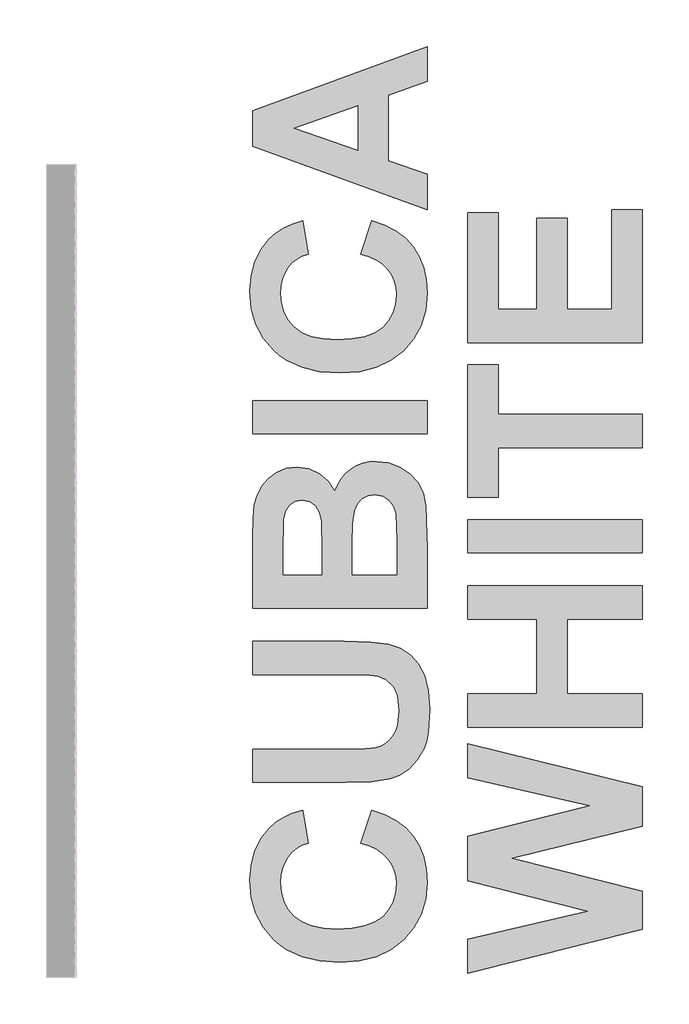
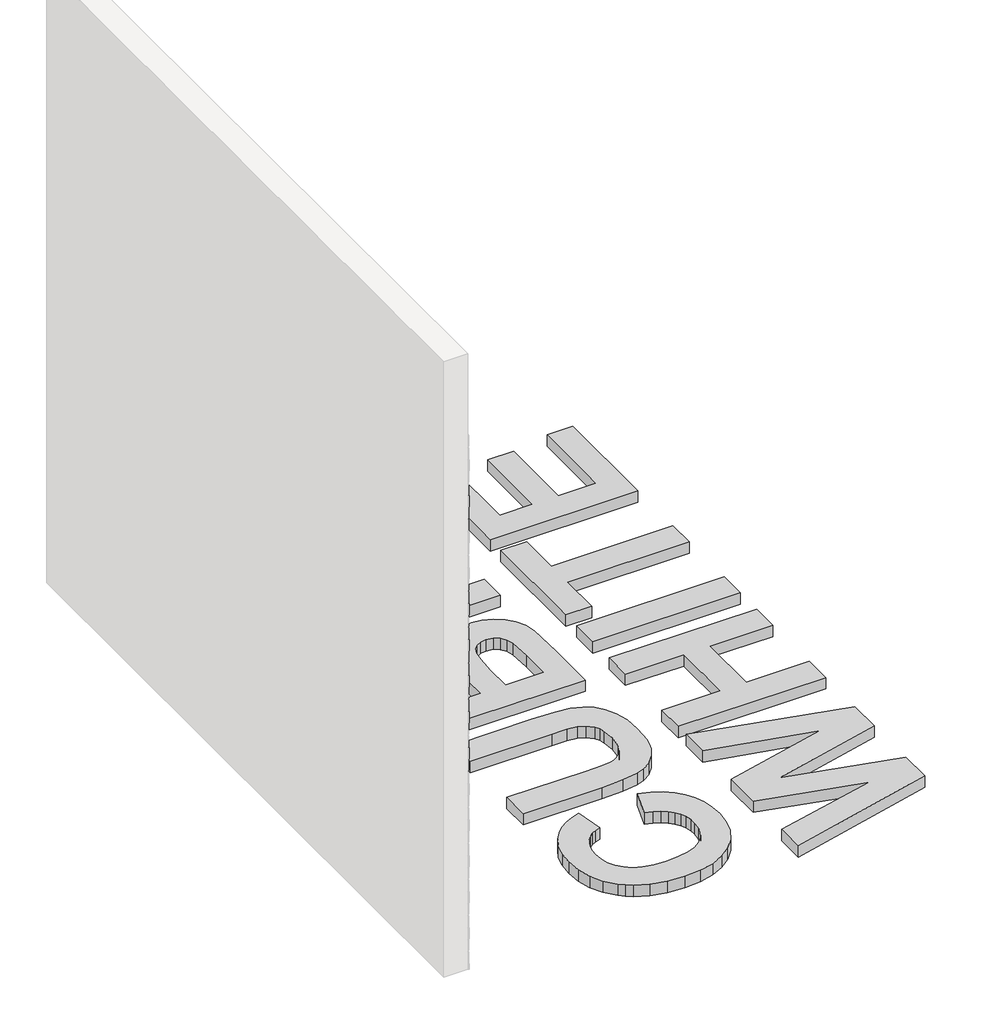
# One storey, part 113 of 121: 112 proxies.
"""IFC4 building model written with IfcOpenShell, lengths in millimetres."""

from ifc_helpers import new_model, si_unit, origin, origin_with_axes, place, context, project, spatial, polyline, outline, extrude, transform, mapped, element, save
from components import generic_models_b2b2c5c1, generic_models_9bf73f6f, generic_models_5d175859, generic_models_95f85f1d, generic_models_01361f29, generic_models_0bb79e7c

model = new_model("IFC4")

# Units and contexts
model_context = context("Model", 3, world=origin())
ifc_project = project(units=[si_unit("LENGTHUNIT", "METRE", prefix="MILLI")], contexts=[model_context])

# Site, building, storey
site = spatial("IfcSite", under=ifc_project)
building = spatial("IfcBuilding", under=site)
storey = spatial("IfcBuildingStorey", under=building, Name="PORTOBELLO - SHOWROOM", Elevation=0.0)

# Proxies
placement = place(None, origin())
generic_models_shape = generic_models_b2b2c5c1(model_context)
element("IfcBuildingElementProxy", 1, Name="PBSHOP - CUBICA WHITE 4,8X8,3 : CUBICA WHITE - POSIÇÃO 01", ObjectType="PBSHOP - CUBICA WHITE 4,8X8,3 : CUBICA WHITE - POSIÇÃO 01", at=placement, inside=storey, context=model_context, shape_type="MappedRepresentation", body=[
    mapped(generic_models_shape, transform((150369.5341846, 21013.3331304, 39.4221668), x_axis=(0.0, 1.0, 0.0), y_axis=(0.0, 0.0, 1.0), z_axis=(1.0, 0.0, 0.0))),
])
element("IfcBuildingElementProxy", 2, Name="PBSHOP - CUBICA WHITE 4,8X8,3 : CUBICA WHITE - POSIÇÃO 01", ObjectType="PBSHOP - CUBICA WHITE 4,8X8,3 : CUBICA WHITE - POSIÇÃO 01", at=placement, inside=storey, context=model_context, shape_type="MappedRepresentation", body=[
    mapped(generic_models_shape, transform((150369.5341846, 21104.1723997, 39.4221668), x_axis=(0.0, 1.0, 0.0), y_axis=(0.0, 0.0, 1.0), z_axis=(1.0, 0.0, 0.0))),
])
element("IfcBuildingElementProxy", 3, Name="PBSHOP - CUBICA WHITE 4,8X8,3 : CUBICA WHITE - POSIÇÃO 01", ObjectType="PBSHOP - CUBICA WHITE 4,8X8,3 : CUBICA WHITE - POSIÇÃO 01", at=placement, inside=storey, context=model_context, shape_type="MappedRepresentation", body=[
    mapped(generic_models_shape, transform((150369.5341846, 21195.0116689, 39.4221668), x_axis=(0.0, 1.0, 0.0), y_axis=(0.0, 0.0, 1.0), z_axis=(1.0, 0.0, 0.0))),
])
element("IfcBuildingElementProxy", 4, Name="PBSHOP - CUBICA WHITE 4,8X8,3 : CUBICA WHITE - POSIÇÃO 01", ObjectType="PBSHOP - CUBICA WHITE 4,8X8,3 : CUBICA WHITE - POSIÇÃO 01", at=placement, inside=storey, context=model_context, shape_type="MappedRepresentation", body=[
    mapped(generic_models_shape, transform((150369.5341846, 21285.8509382, 39.4221668), x_axis=(0.0, 1.0, 0.0), y_axis=(0.0, 0.0, 1.0), z_axis=(1.0, 0.0, 0.0))),
])
element("IfcBuildingElementProxy", 5, Name="PBSHOP - CUBICA WHITE 4,8X8,3 : CUBICA WHITE - POSIÇÃO 01", ObjectType="PBSHOP - CUBICA WHITE 4,8X8,3 : CUBICA WHITE - POSIÇÃO 01", at=placement, inside=storey, context=model_context, shape_type="MappedRepresentation", body=[
    mapped(generic_models_shape, transform((150369.5341846, 21376.6902074, 39.4221668), x_axis=(0.0, 1.0, 0.0), y_axis=(0.0, 0.0, 1.0), z_axis=(1.0, 0.0, 0.0))),
])
element("IfcBuildingElementProxy", 6, Name="PBSHOP - CUBICA WHITE 4,8X8,3 : CUBICA WHITE - POSIÇÃO 01", ObjectType="PBSHOP - CUBICA WHITE 4,8X8,3 : CUBICA WHITE - POSIÇÃO 01", at=placement, inside=storey, context=model_context, shape_type="MappedRepresentation", body=[
    mapped(generic_models_shape, transform((150369.5341846, 21467.5294767, 39.4221668), x_axis=(0.0, 1.0, 0.0), y_axis=(0.0, 0.0, 1.0), z_axis=(1.0, 0.0, 0.0))),
])
element("IfcBuildingElementProxy", 7, Name="PBSHOP - CUBICA WHITE 4,8X8,3 : CUBICA WHITE - POSIÇÃO 01", ObjectType="PBSHOP - CUBICA WHITE 4,8X8,3 : CUBICA WHITE - POSIÇÃO 01", at=placement, inside=storey, context=model_context, shape_type="MappedRepresentation", body=[
    mapped(generic_models_shape, transform((150369.5341846, 21558.3687459, 39.4221668), x_axis=(0.0, 1.0, 0.0), y_axis=(0.0, 0.0, 1.0), z_axis=(1.0, 0.0, 0.0))),
])
element("IfcBuildingElementProxy", 8, Name="PBSHOP - CUBICA WHITE 4,8X8,3 : CUBICA WHITE - POSIÇÃO 01", ObjectType="PBSHOP - CUBICA WHITE 4,8X8,3 : CUBICA WHITE - POSIÇÃO 01", at=placement, inside=storey, context=model_context, shape_type="MappedRepresentation", body=[
    mapped(generic_models_shape, transform((150369.5341846, 21649.2080152, 39.4221668), x_axis=(0.0, 1.0, 0.0), y_axis=(0.0, 0.0, 1.0), z_axis=(1.0, 0.0, 0.0))),
])
element("IfcBuildingElementProxy", 9, Name="PBSHOP - CUBICA WHITE 4,8X8,3 : CUBICA WHITE - POSIÇÃO 01", ObjectType="PBSHOP - CUBICA WHITE 4,8X8,3 : CUBICA WHITE - POSIÇÃO 01", at=placement, inside=storey, context=model_context, shape_type="MappedRepresentation", body=[
    mapped(generic_models_shape, transform((150369.5341846, 21740.0472844, 39.4221668), x_axis=(0.0, 1.0, 0.0), y_axis=(0.0, 0.0, 1.0), z_axis=(1.0, 0.0, 0.0))),
])
element("IfcBuildingElementProxy", 10, Name="PBSHOP - CUBICA WHITE 4,8X8,3 : CUBICA WHITE - POSIÇÃO 01", ObjectType="PBSHOP - CUBICA WHITE 4,8X8,3 : CUBICA WHITE - POSIÇÃO 01", at=placement, inside=storey, context=model_context, shape_type="MappedRepresentation", body=[
    mapped(generic_models_shape, transform((150369.5341846, 21830.8865536, 39.4221668), x_axis=(0.0, 1.0, 0.0), y_axis=(0.0, 0.0, 1.0), z_axis=(1.0, 0.0, 0.0))),
])
element("IfcBuildingElementProxy", 11, Name="PBSHOP - CUBICA WHITE 4,8X8,3 : CUBICA WHITE - POSIÇÃO 01", ObjectType="PBSHOP - CUBICA WHITE 4,8X8,3 : CUBICA WHITE - POSIÇÃO 01", at=placement, inside=storey, context=model_context, shape_type="MappedRepresentation", body=[
    mapped(generic_models_shape, transform((150369.5341846, 21921.7258229, 39.4221668), x_axis=(0.0, 1.0, 0.0), y_axis=(0.0, 0.0, 1.0), z_axis=(1.0, 0.0, 0.0))),
])
element("IfcBuildingElementProxy", 12, Name="PBSHOP - CUBICA WHITE 4,8X8,3 : CUBICA WHITE - POSIÇÃO 01", ObjectType="PBSHOP - CUBICA WHITE 4,8X8,3 : CUBICA WHITE - POSIÇÃO 01", at=placement, inside=storey, context=model_context, shape_type="MappedRepresentation", body=[
    mapped(generic_models_shape, transform((150369.5341846, 21058.7527651, 118.3568052), x_axis=(0.0, 1.0, 0.0), y_axis=(0.0, 0.0, 1.0), z_axis=(1.0, 0.0, 0.0))),
])
element("IfcBuildingElementProxy", 13, Name="PBSHOP - CUBICA WHITE 4,8X8,3 : CUBICA WHITE - POSIÇÃO 01", ObjectType="PBSHOP - CUBICA WHITE 4,8X8,3 : CUBICA WHITE - POSIÇÃO 01", at=placement, inside=storey, context=model_context, shape_type="MappedRepresentation", body=[
    mapped(generic_models_shape, transform((150369.5341846, 21149.5920343, 118.3568052), x_axis=(0.0, 1.0, 0.0), y_axis=(0.0, 0.0, 1.0), z_axis=(1.0, 0.0, 0.0))),
])
element("IfcBuildingElementProxy", 14, Name="PBSHOP - CUBICA WHITE 4,8X8,3 : CUBICA WHITE - POSIÇÃO 01", ObjectType="PBSHOP - CUBICA WHITE 4,8X8,3 : CUBICA WHITE - POSIÇÃO 01", at=placement, inside=storey, context=model_context, shape_type="MappedRepresentation", body=[
    mapped(generic_models_shape, transform((150369.5341846, 21240.4313036, 118.3568052), x_axis=(0.0, 1.0, 0.0), y_axis=(0.0, 0.0, 1.0), z_axis=(1.0, 0.0, 0.0))),
])
element("IfcBuildingElementProxy", 15, Name="PBSHOP - CUBICA WHITE 4,8X8,3 : CUBICA WHITE - POSIÇÃO 01", ObjectType="PBSHOP - CUBICA WHITE 4,8X8,3 : CUBICA WHITE - POSIÇÃO 01", at=placement, inside=storey, context=model_context, shape_type="MappedRepresentation", body=[
    mapped(generic_models_shape, transform((150369.5341846, 21331.2705728, 118.3568052), x_axis=(0.0, 1.0, 0.0), y_axis=(0.0, 0.0, 1.0), z_axis=(1.0, 0.0, 0.0))),
])
element("IfcBuildingElementProxy", 16, Name="PBSHOP - CUBICA WHITE 4,8X8,3 : CUBICA WHITE - POSIÇÃO 01", ObjectType="PBSHOP - CUBICA WHITE 4,8X8,3 : CUBICA WHITE - POSIÇÃO 01", at=placement, inside=storey, context=model_context, shape_type="MappedRepresentation", body=[
    mapped(generic_models_shape, transform((150369.5341846, 21422.109842, 118.3568052), x_axis=(0.0, 1.0, 0.0), y_axis=(0.0, 0.0, 1.0), z_axis=(1.0, 0.0, 0.0))),
])
element("IfcBuildingElementProxy", 17, Name="PBSHOP - CUBICA WHITE 4,8X8,3 : CUBICA WHITE - POSIÇÃO 01", ObjectType="PBSHOP - CUBICA WHITE 4,8X8,3 : CUBICA WHITE - POSIÇÃO 01", at=placement, inside=storey, context=model_context, shape_type="MappedRepresentation", body=[
    mapped(generic_models_shape, transform((150369.5341846, 21512.9491113, 118.3568052), x_axis=(0.0, 1.0, 0.0), y_axis=(0.0, 0.0, 1.0), z_axis=(1.0, 0.0, 0.0))),
])
element("IfcBuildingElementProxy", 18, Name="PBSHOP - CUBICA WHITE 4,8X8,3 : CUBICA WHITE - POSIÇÃO 01", ObjectType="PBSHOP - CUBICA WHITE 4,8X8,3 : CUBICA WHITE - POSIÇÃO 01", at=placement, inside=storey, context=model_context, shape_type="MappedRepresentation", body=[
    mapped(generic_models_shape, transform((150369.5341846, 21603.7883805, 118.3568052), x_axis=(0.0, 1.0, 0.0), y_axis=(0.0, 0.0, 1.0), z_axis=(1.0, 0.0, 0.0))),
])
element("IfcBuildingElementProxy", 19, Name="PBSHOP - CUBICA WHITE 4,8X8,3 : CUBICA WHITE - POSIÇÃO 01", ObjectType="PBSHOP - CUBICA WHITE 4,8X8,3 : CUBICA WHITE - POSIÇÃO 01", at=placement, inside=storey, context=model_context, shape_type="MappedRepresentation", body=[
    mapped(generic_models_shape, transform((150369.5341846, 21694.6276498, 118.3568052), x_axis=(0.0, 1.0, 0.0), y_axis=(0.0, 0.0, 1.0), z_axis=(1.0, 0.0, 0.0))),
])
element("IfcBuildingElementProxy", 20, Name="PBSHOP - CUBICA WHITE 4,8X8,3 : CUBICA WHITE - POSIÇÃO 01", ObjectType="PBSHOP - CUBICA WHITE 4,8X8,3 : CUBICA WHITE - POSIÇÃO 01", at=placement, inside=storey, context=model_context, shape_type="MappedRepresentation", body=[
    mapped(generic_models_shape, transform((150369.5341846, 21785.466919, 118.3568052), x_axis=(0.0, 1.0, 0.0), y_axis=(0.0, 0.0, 1.0), z_axis=(1.0, 0.0, 0.0))),
])
element("IfcBuildingElementProxy", 21, Name="PBSHOP - CUBICA WHITE 4,8X8,3 : CUBICA WHITE - POSIÇÃO 01", ObjectType="PBSHOP - CUBICA WHITE 4,8X8,3 : CUBICA WHITE - POSIÇÃO 01", at=placement, inside=storey, context=model_context, shape_type="MappedRepresentation", body=[
    mapped(generic_models_shape, transform((150369.5341846, 21876.3061883, 118.3568052), x_axis=(0.0, 1.0, 0.0), y_axis=(0.0, 0.0, 1.0), z_axis=(1.0, 0.0, 0.0))),
])
element("IfcBuildingElementProxy", 22, Name="PBSHOP - CUBICA WHITE 4,8X8,3 : CUBICA WHITE - POSIÇÃO 01", ObjectType="PBSHOP - CUBICA WHITE 4,8X8,3 : CUBICA WHITE - POSIÇÃO 01", at=placement, inside=storey, context=model_context, shape_type="MappedRepresentation", body=[
    mapped(generic_models_shape, transform((150369.5341846, 21967.1454575, 118.3568052), x_axis=(0.0, 1.0, 0.0), y_axis=(0.0, 0.0, 1.0), z_axis=(1.0, 0.0, 0.0))),
])
element("IfcBuildingElementProxy", 23, Name="PBSHOP - CUBICA WHITE 4,8X8,3 : CUBICA WHITE - POSIÇÃO 01", ObjectType="PBSHOP - CUBICA WHITE 4,8X8,3 : CUBICA WHITE - POSIÇÃO 01", at=placement, inside=storey, context=model_context, shape_type="MappedRepresentation", body=[
    mapped(generic_models_shape, transform((150369.5341846, 21013.3331304, 197.2914436), x_axis=(0.0, 1.0, 0.0), y_axis=(0.0, 0.0, 1.0), z_axis=(1.0, 0.0, 0.0))),
])
element("IfcBuildingElementProxy", 24, Name="PBSHOP - CUBICA WHITE 4,8X8,3 : CUBICA WHITE - POSIÇÃO 01", ObjectType="PBSHOP - CUBICA WHITE 4,8X8,3 : CUBICA WHITE - POSIÇÃO 01", at=placement, inside=storey, context=model_context, shape_type="MappedRepresentation", body=[
    mapped(generic_models_shape, transform((150369.5341846, 21104.1723997, 197.2914436), x_axis=(0.0, 1.0, 0.0), y_axis=(0.0, 0.0, 1.0), z_axis=(1.0, 0.0, 0.0))),
])
element("IfcBuildingElementProxy", 25, Name="PBSHOP - CUBICA WHITE 4,8X8,3 : CUBICA WHITE - POSIÇÃO 01", ObjectType="PBSHOP - CUBICA WHITE 4,8X8,3 : CUBICA WHITE - POSIÇÃO 01", at=placement, inside=storey, context=model_context, shape_type="MappedRepresentation", body=[
    mapped(generic_models_shape, transform((150369.5341846, 21195.0116689, 197.2914436), x_axis=(0.0, 1.0, 0.0), y_axis=(0.0, 0.0, 1.0), z_axis=(1.0, 0.0, 0.0))),
])
element("IfcBuildingElementProxy", 26, Name="PBSHOP - CUBICA WHITE 4,8X8,3 : CUBICA WHITE - POSIÇÃO 01", ObjectType="PBSHOP - CUBICA WHITE 4,8X8,3 : CUBICA WHITE - POSIÇÃO 01", at=placement, inside=storey, context=model_context, shape_type="MappedRepresentation", body=[
    mapped(generic_models_shape, transform((150369.5341846, 21285.8509382, 197.2914436), x_axis=(0.0, 1.0, 0.0), y_axis=(0.0, 0.0, 1.0), z_axis=(1.0, 0.0, 0.0))),
])
element("IfcBuildingElementProxy", 27, Name="PBSHOP - CUBICA WHITE 4,8X8,3 : CUBICA WHITE - POSIÇÃO 01", ObjectType="PBSHOP - CUBICA WHITE 4,8X8,3 : CUBICA WHITE - POSIÇÃO 01", at=placement, inside=storey, context=model_context, shape_type="MappedRepresentation", body=[
    mapped(generic_models_shape, transform((150369.5341846, 21376.6902074, 197.2914436), x_axis=(0.0, 1.0, 0.0), y_axis=(0.0, 0.0, 1.0), z_axis=(1.0, 0.0, 0.0))),
])
element("IfcBuildingElementProxy", 28, Name="PBSHOP - CUBICA WHITE 4,8X8,3 : CUBICA WHITE - POSIÇÃO 01", ObjectType="PBSHOP - CUBICA WHITE 4,8X8,3 : CUBICA WHITE - POSIÇÃO 01", at=placement, inside=storey, context=model_context, shape_type="MappedRepresentation", body=[
    mapped(generic_models_shape, transform((150369.5341846, 21467.5294767, 197.2914436), x_axis=(0.0, 1.0, 0.0), y_axis=(0.0, 0.0, 1.0), z_axis=(1.0, 0.0, 0.0))),
])
element("IfcBuildingElementProxy", 29, Name="PBSHOP - CUBICA WHITE 4,8X8,3 : CUBICA WHITE - POSIÇÃO 01", ObjectType="PBSHOP - CUBICA WHITE 4,8X8,3 : CUBICA WHITE - POSIÇÃO 01", at=placement, inside=storey, context=model_context, shape_type="MappedRepresentation", body=[
    mapped(generic_models_shape, transform((150369.5341846, 21558.3687459, 197.2914436), x_axis=(0.0, 1.0, 0.0), y_axis=(0.0, 0.0, 1.0), z_axis=(1.0, 0.0, 0.0))),
])
element("IfcBuildingElementProxy", 30, Name="PBSHOP - CUBICA WHITE 4,8X8,3 : CUBICA WHITE - POSIÇÃO 01", ObjectType="PBSHOP - CUBICA WHITE 4,8X8,3 : CUBICA WHITE - POSIÇÃO 01", at=placement, inside=storey, context=model_context, shape_type="MappedRepresentation", body=[
    mapped(generic_models_shape, transform((150369.5341846, 21649.2080152, 197.2914436), x_axis=(0.0, 1.0, 0.0), y_axis=(0.0, 0.0, 1.0), z_axis=(1.0, 0.0, 0.0))),
])
element("IfcBuildingElementProxy", 31, Name="PBSHOP - CUBICA WHITE 4,8X8,3 : CUBICA WHITE - POSIÇÃO 01", ObjectType="PBSHOP - CUBICA WHITE 4,8X8,3 : CUBICA WHITE - POSIÇÃO 01", at=placement, inside=storey, context=model_context, shape_type="MappedRepresentation", body=[
    mapped(generic_models_shape, transform((150369.5341846, 21740.0472844, 197.2914436), x_axis=(0.0, 1.0, 0.0), y_axis=(0.0, 0.0, 1.0), z_axis=(1.0, 0.0, 0.0))),
])
element("IfcBuildingElementProxy", 32, Name="PBSHOP - CUBICA WHITE 4,8X8,3 : CUBICA WHITE - POSIÇÃO 01", ObjectType="PBSHOP - CUBICA WHITE 4,8X8,3 : CUBICA WHITE - POSIÇÃO 01", at=placement, inside=storey, context=model_context, shape_type="MappedRepresentation", body=[
    mapped(generic_models_shape, transform((150369.5341846, 21830.8865536, 197.2914436), x_axis=(0.0, 1.0, 0.0), y_axis=(0.0, 0.0, 1.0), z_axis=(1.0, 0.0, 0.0))),
])
element("IfcBuildingElementProxy", 33, Name="PBSHOP - CUBICA WHITE 4,8X8,3 : CUBICA WHITE - POSIÇÃO 01", ObjectType="PBSHOP - CUBICA WHITE 4,8X8,3 : CUBICA WHITE - POSIÇÃO 01", at=placement, inside=storey, context=model_context, shape_type="MappedRepresentation", body=[
    mapped(generic_models_shape, transform((150369.5341846, 21921.7258229, 197.2914436), x_axis=(0.0, 1.0, 0.0), y_axis=(0.0, 0.0, 1.0), z_axis=(1.0, 0.0, 0.0))),
])
element("IfcBuildingElementProxy", 34, Name="PBSHOP - CUBICA WHITE 4,8X8,3 : CUBICA WHITE - POSIÇÃO 01", ObjectType="PBSHOP - CUBICA WHITE 4,8X8,3 : CUBICA WHITE - POSIÇÃO 01", at=placement, inside=storey, context=model_context, shape_type="MappedRepresentation", body=[
    mapped(generic_models_shape, transform((150369.5341846, 21058.7527651, 276.2260819), x_axis=(0.0, 1.0, 0.0), y_axis=(0.0, 0.0, 1.0), z_axis=(1.0, 0.0, 0.0))),
])
element("IfcBuildingElementProxy", 35, Name="PBSHOP - CUBICA WHITE 4,8X8,3 : CUBICA WHITE - POSIÇÃO 01", ObjectType="PBSHOP - CUBICA WHITE 4,8X8,3 : CUBICA WHITE - POSIÇÃO 01", at=placement, inside=storey, context=model_context, shape_type="MappedRepresentation", body=[
    mapped(generic_models_shape, transform((150369.5341846, 21149.5920343, 276.2260819), x_axis=(0.0, 1.0, 0.0), y_axis=(0.0, 0.0, 1.0), z_axis=(1.0, 0.0, 0.0))),
])
element("IfcBuildingElementProxy", 36, Name="PBSHOP - CUBICA WHITE 4,8X8,3 : CUBICA WHITE - POSIÇÃO 01", ObjectType="PBSHOP - CUBICA WHITE 4,8X8,3 : CUBICA WHITE - POSIÇÃO 01", at=placement, inside=storey, context=model_context, shape_type="MappedRepresentation", body=[
    mapped(generic_models_shape, transform((150369.5341846, 21240.4313036, 276.2260819), x_axis=(0.0, 1.0, 0.0), y_axis=(0.0, 0.0, 1.0), z_axis=(1.0, 0.0, 0.0))),
])
element("IfcBuildingElementProxy", 37, Name="PBSHOP - CUBICA WHITE 4,8X8,3 : CUBICA WHITE - POSIÇÃO 01", ObjectType="PBSHOP - CUBICA WHITE 4,8X8,3 : CUBICA WHITE - POSIÇÃO 01", at=placement, inside=storey, context=model_context, shape_type="MappedRepresentation", body=[
    mapped(generic_models_shape, transform((150369.5341846, 21331.2705728, 276.2260819), x_axis=(0.0, 1.0, 0.0), y_axis=(0.0, 0.0, 1.0), z_axis=(1.0, 0.0, 0.0))),
])
element("IfcBuildingElementProxy", 38, Name="PBSHOP - CUBICA WHITE 4,8X8,3 : CUBICA WHITE - POSIÇÃO 01", ObjectType="PBSHOP - CUBICA WHITE 4,8X8,3 : CUBICA WHITE - POSIÇÃO 01", at=placement, inside=storey, context=model_context, shape_type="MappedRepresentation", body=[
    mapped(generic_models_shape, transform((150369.5341846, 21422.109842, 276.2260819), x_axis=(0.0, 1.0, 0.0), y_axis=(0.0, 0.0, 1.0), z_axis=(1.0, 0.0, 0.0))),
])
element("IfcBuildingElementProxy", 39, Name="PBSHOP - CUBICA WHITE 4,8X8,3 : CUBICA WHITE - POSIÇÃO 01", ObjectType="PBSHOP - CUBICA WHITE 4,8X8,3 : CUBICA WHITE - POSIÇÃO 01", at=placement, inside=storey, context=model_context, shape_type="MappedRepresentation", body=[
    mapped(generic_models_shape, transform((150369.5341846, 21512.9491113, 276.2260819), x_axis=(0.0, 1.0, 0.0), y_axis=(0.0, 0.0, 1.0), z_axis=(1.0, 0.0, 0.0))),
])
generic_models_2_shape = generic_models_9bf73f6f(model_context)
element("IfcBuildingElementProxy", 40, Name="PBSHOP - CUBICA WHITE 4,8X8,3 : CUBICA WHITE - POSIÇÃO 03", ObjectType="PBSHOP - CUBICA WHITE 4,8X8,3 : CUBICA WHITE - POSIÇÃO 03", at=placement, inside=storey, context=model_context, shape_type="MappedRepresentation", body=[
    mapped(generic_models_2_shape, transform((150369.5341846, 21036.0451069, 78.8482756), x_axis=(0.0, 1.0, 0.0), y_axis=(0.0, 0.0, 1.0), z_axis=(1.0, 0.0, 0.0))),
])
element("IfcBuildingElementProxy", 41, Name="PBSHOP - CUBICA WHITE 4,8X8,3 : CUBICA WHITE - POSIÇÃO 03", ObjectType="PBSHOP - CUBICA WHITE 4,8X8,3 : CUBICA WHITE - POSIÇÃO 03", at=placement, inside=storey, context=model_context, shape_type="MappedRepresentation", body=[
    mapped(generic_models_2_shape, transform((150369.5341846, 21126.8843762, 78.8482756), x_axis=(0.0, 1.0, 0.0), y_axis=(0.0, 0.0, 1.0), z_axis=(1.0, 0.0, 0.0))),
])
element("IfcBuildingElementProxy", 42, Name="PBSHOP - CUBICA WHITE 4,8X8,3 : CUBICA WHITE - POSIÇÃO 03", ObjectType="PBSHOP - CUBICA WHITE 4,8X8,3 : CUBICA WHITE - POSIÇÃO 03", at=placement, inside=storey, context=model_context, shape_type="MappedRepresentation", body=[
    mapped(generic_models_2_shape, transform((150369.5341846, 21217.7236454, 78.8482756), x_axis=(0.0, 1.0, 0.0), y_axis=(0.0, 0.0, 1.0), z_axis=(1.0, 0.0, 0.0))),
])
element("IfcBuildingElementProxy", 43, Name="PBSHOP - CUBICA WHITE 4,8X8,3 : CUBICA WHITE - POSIÇÃO 03", ObjectType="PBSHOP - CUBICA WHITE 4,8X8,3 : CUBICA WHITE - POSIÇÃO 03", at=placement, inside=storey, context=model_context, shape_type="MappedRepresentation", body=[
    mapped(generic_models_2_shape, transform((150369.5341846, 21308.5629147, 78.8482756), x_axis=(0.0, 1.0, 0.0), y_axis=(0.0, 0.0, 1.0), z_axis=(1.0, 0.0, 0.0))),
])
element("IfcBuildingElementProxy", 44, Name="PBSHOP - CUBICA WHITE 4,8X8,3 : CUBICA WHITE - POSIÇÃO 03", ObjectType="PBSHOP - CUBICA WHITE 4,8X8,3 : CUBICA WHITE - POSIÇÃO 03", at=placement, inside=storey, context=model_context, shape_type="MappedRepresentation", body=[
    mapped(generic_models_2_shape, transform((150369.5341846, 21399.4021839, 78.8482756), x_axis=(0.0, 1.0, 0.0), y_axis=(0.0, 0.0, 1.0), z_axis=(1.0, 0.0, 0.0))),
])
element("IfcBuildingElementProxy", 45, Name="PBSHOP - CUBICA WHITE 4,8X8,3 : CUBICA WHITE - POSIÇÃO 03", ObjectType="PBSHOP - CUBICA WHITE 4,8X8,3 : CUBICA WHITE - POSIÇÃO 03", at=placement, inside=storey, context=model_context, shape_type="MappedRepresentation", body=[
    mapped(generic_models_2_shape, transform((150369.5341846, 21490.2414531, 78.8482756), x_axis=(0.0, 1.0, 0.0), y_axis=(0.0, 0.0, 1.0), z_axis=(1.0, 0.0, 0.0))),
])
element("IfcBuildingElementProxy", 46, Name="PBSHOP - CUBICA WHITE 4,8X8,3 : CUBICA WHITE - POSIÇÃO 03", ObjectType="PBSHOP - CUBICA WHITE 4,8X8,3 : CUBICA WHITE - POSIÇÃO 03", at=placement, inside=storey, context=model_context, shape_type="MappedRepresentation", body=[
    mapped(generic_models_2_shape, transform((150369.5341846, 21581.0807224, 78.8482756), x_axis=(0.0, 1.0, 0.0), y_axis=(0.0, 0.0, 1.0), z_axis=(1.0, 0.0, 0.0))),
])
element("IfcBuildingElementProxy", 47, Name="PBSHOP - CUBICA WHITE 4,8X8,3 : CUBICA WHITE - POSIÇÃO 03", ObjectType="PBSHOP - CUBICA WHITE 4,8X8,3 : CUBICA WHITE - POSIÇÃO 03", at=placement, inside=storey, context=model_context, shape_type="MappedRepresentation", body=[
    mapped(generic_models_2_shape, transform((150369.5341846, 21671.9199916, 78.8482756), x_axis=(0.0, 1.0, 0.0), y_axis=(0.0, 0.0, 1.0), z_axis=(1.0, 0.0, 0.0))),
])
element("IfcBuildingElementProxy", 48, Name="PBSHOP - CUBICA WHITE 4,8X8,3 : CUBICA WHITE - POSIÇÃO 03", ObjectType="PBSHOP - CUBICA WHITE 4,8X8,3 : CUBICA WHITE - POSIÇÃO 03", at=placement, inside=storey, context=model_context, shape_type="MappedRepresentation", body=[
    mapped(generic_models_2_shape, transform((150369.5341846, 21762.7592609, 78.8482756), x_axis=(0.0, 1.0, 0.0), y_axis=(0.0, 0.0, 1.0), z_axis=(1.0, 0.0, 0.0))),
])
element("IfcBuildingElementProxy", 49, Name="PBSHOP - CUBICA WHITE 4,8X8,3 : CUBICA WHITE - POSIÇÃO 03", ObjectType="PBSHOP - CUBICA WHITE 4,8X8,3 : CUBICA WHITE - POSIÇÃO 03", at=placement, inside=storey, context=model_context, shape_type="MappedRepresentation", body=[
    mapped(generic_models_2_shape, transform((150369.5341846, 21853.5985301, 78.8482756), x_axis=(0.0, 1.0, 0.0), y_axis=(0.0, 0.0, 1.0), z_axis=(1.0, 0.0, 0.0))),
])
element("IfcBuildingElementProxy", 50, Name="PBSHOP - CUBICA WHITE 4,8X8,3 : CUBICA WHITE - POSIÇÃO 03", ObjectType="PBSHOP - CUBICA WHITE 4,8X8,3 : CUBICA WHITE - POSIÇÃO 03", at=placement, inside=storey, context=model_context, shape_type="MappedRepresentation", body=[
    mapped(generic_models_2_shape, transform((150369.5341846, 21944.4377994, 78.8482756), x_axis=(0.0, 1.0, 0.0), y_axis=(0.0, 0.0, 1.0), z_axis=(1.0, 0.0, 0.0))),
])
element("IfcBuildingElementProxy", 51, Name="PBSHOP - CUBICA WHITE 4,8X8,3 : CUBICA WHITE - POSIÇÃO 03", ObjectType="PBSHOP - CUBICA WHITE 4,8X8,3 : CUBICA WHITE - POSIÇÃO 03", at=placement, inside=storey, context=model_context, shape_type="MappedRepresentation", body=[
    mapped(generic_models_2_shape, transform((150369.5341846, 21081.4647415, 157.7829139), x_axis=(0.0, 1.0, 0.0), y_axis=(0.0, 0.0, 1.0), z_axis=(1.0, 0.0, 0.0))),
])
element("IfcBuildingElementProxy", 52, Name="PBSHOP - CUBICA WHITE 4,8X8,3 : CUBICA WHITE - POSIÇÃO 03", ObjectType="PBSHOP - CUBICA WHITE 4,8X8,3 : CUBICA WHITE - POSIÇÃO 03", at=placement, inside=storey, context=model_context, shape_type="MappedRepresentation", body=[
    mapped(generic_models_2_shape, transform((150369.5341846, 21172.3040108, 157.7829139), x_axis=(0.0, 1.0, 0.0), y_axis=(0.0, 0.0, 1.0), z_axis=(1.0, 0.0, 0.0))),
])
element("IfcBuildingElementProxy", 53, Name="PBSHOP - CUBICA WHITE 4,8X8,3 : CUBICA WHITE - POSIÇÃO 03", ObjectType="PBSHOP - CUBICA WHITE 4,8X8,3 : CUBICA WHITE - POSIÇÃO 03", at=placement, inside=storey, context=model_context, shape_type="MappedRepresentation", body=[
    mapped(generic_models_2_shape, transform((150369.5341846, 21263.14328, 157.7829139), x_axis=(0.0, 1.0, 0.0), y_axis=(0.0, 0.0, 1.0), z_axis=(1.0, 0.0, 0.0))),
])
element("IfcBuildingElementProxy", 54, Name="PBSHOP - CUBICA WHITE 4,8X8,3 : CUBICA WHITE - POSIÇÃO 03", ObjectType="PBSHOP - CUBICA WHITE 4,8X8,3 : CUBICA WHITE - POSIÇÃO 03", at=placement, inside=storey, context=model_context, shape_type="MappedRepresentation", body=[
    mapped(generic_models_2_shape, transform((150369.5341846, 21353.9825493, 157.7829139), x_axis=(0.0, 1.0, 0.0), y_axis=(0.0, 0.0, 1.0), z_axis=(1.0, 0.0, 0.0))),
])
element("IfcBuildingElementProxy", 55, Name="PBSHOP - CUBICA WHITE 4,8X8,3 : CUBICA WHITE - POSIÇÃO 03", ObjectType="PBSHOP - CUBICA WHITE 4,8X8,3 : CUBICA WHITE - POSIÇÃO 03", at=placement, inside=storey, context=model_context, shape_type="MappedRepresentation", body=[
    mapped(generic_models_2_shape, transform((150369.5341846, 21444.8218185, 157.7829139), x_axis=(0.0, 1.0, 0.0), y_axis=(0.0, 0.0, 1.0), z_axis=(1.0, 0.0, 0.0))),
])
element("IfcBuildingElementProxy", 56, Name="PBSHOP - CUBICA WHITE 4,8X8,3 : CUBICA WHITE - POSIÇÃO 03", ObjectType="PBSHOP - CUBICA WHITE 4,8X8,3 : CUBICA WHITE - POSIÇÃO 03", at=placement, inside=storey, context=model_context, shape_type="MappedRepresentation", body=[
    mapped(generic_models_2_shape, transform((150369.5341846, 21535.6610878, 157.7829139), x_axis=(0.0, 1.0, 0.0), y_axis=(0.0, 0.0, 1.0), z_axis=(1.0, 0.0, 0.0))),
])
element("IfcBuildingElementProxy", 57, Name="PBSHOP - CUBICA WHITE 4,8X8,3 : CUBICA WHITE - POSIÇÃO 03", ObjectType="PBSHOP - CUBICA WHITE 4,8X8,3 : CUBICA WHITE - POSIÇÃO 03", at=placement, inside=storey, context=model_context, shape_type="MappedRepresentation", body=[
    mapped(generic_models_2_shape, transform((150369.5341846, 21626.500357, 157.7829139), x_axis=(0.0, 1.0, 0.0), y_axis=(0.0, 0.0, 1.0), z_axis=(1.0, 0.0, 0.0))),
])
element("IfcBuildingElementProxy", 58, Name="PBSHOP - CUBICA WHITE 4,8X8,3 : CUBICA WHITE - POSIÇÃO 03", ObjectType="PBSHOP - CUBICA WHITE 4,8X8,3 : CUBICA WHITE - POSIÇÃO 03", at=placement, inside=storey, context=model_context, shape_type="MappedRepresentation", body=[
    mapped(generic_models_2_shape, transform((150369.5341846, 21717.3396263, 157.7829139), x_axis=(0.0, 1.0, 0.0), y_axis=(0.0, 0.0, 1.0), z_axis=(1.0, 0.0, 0.0))),
])
element("IfcBuildingElementProxy", 59, Name="PBSHOP - CUBICA WHITE 4,8X8,3 : CUBICA WHITE - POSIÇÃO 03", ObjectType="PBSHOP - CUBICA WHITE 4,8X8,3 : CUBICA WHITE - POSIÇÃO 03", at=placement, inside=storey, context=model_context, shape_type="MappedRepresentation", body=[
    mapped(generic_models_2_shape, transform((150369.5341846, 21808.1788955, 157.7829139), x_axis=(0.0, 1.0, 0.0), y_axis=(0.0, 0.0, 1.0), z_axis=(1.0, 0.0, 0.0))),
])
element("IfcBuildingElementProxy", 60, Name="PBSHOP - CUBICA WHITE 4,8X8,3 : CUBICA WHITE - POSIÇÃO 03", ObjectType="PBSHOP - CUBICA WHITE 4,8X8,3 : CUBICA WHITE - POSIÇÃO 03", at=placement, inside=storey, context=model_context, shape_type="MappedRepresentation", body=[
    mapped(generic_models_2_shape, transform((150369.5341846, 21899.0181647, 157.7829139), x_axis=(0.0, 1.0, 0.0), y_axis=(0.0, 0.0, 1.0), z_axis=(1.0, 0.0, 0.0))),
])
generic_models_3_shape = generic_models_5d175859(model_context)
element("IfcBuildingElementProxy", 61, Name="PBSHOP - CUBICA WHITE 4,8X8,3 : CUBICA WHITE - POSIÇÃO 01", ObjectType="PBSHOP - CUBICA WHITE 4,8X8,3 : CUBICA WHITE - POSIÇÃO 01", at=placement, inside=storey, context=model_context, shape_type="MappedRepresentation", body=[
    mapped(generic_models_3_shape, transform((150369.5341846, 21058.7570834, 39.4221668), x_axis=(0.0, -1.0, 0.0), y_axis=(0.0, 0.0, -1.0), z_axis=(1.0, 0.0, 0.0))),
])
element("IfcBuildingElementProxy", 62, Name="PBSHOP - CUBICA WHITE 4,8X8,3 : CUBICA WHITE - POSIÇÃO 01", ObjectType="PBSHOP - CUBICA WHITE 4,8X8,3 : CUBICA WHITE - POSIÇÃO 01", at=placement, inside=storey, context=model_context, shape_type="MappedRepresentation", body=[
    mapped(generic_models_3_shape, transform((150369.5341846, 21149.5963526, 39.4221668), x_axis=(0.0, -1.0, 0.0), y_axis=(0.0, 0.0, -1.0), z_axis=(1.0, 0.0, 0.0))),
])
element("IfcBuildingElementProxy", 63, Name="PBSHOP - CUBICA WHITE 4,8X8,3 : CUBICA WHITE - POSIÇÃO 01", ObjectType="PBSHOP - CUBICA WHITE 4,8X8,3 : CUBICA WHITE - POSIÇÃO 01", at=placement, inside=storey, context=model_context, shape_type="MappedRepresentation", body=[
    mapped(generic_models_3_shape, transform((150369.5341846, 21240.4356219, 39.4221668), x_axis=(0.0, -1.0, 0.0), y_axis=(0.0, 0.0, -1.0), z_axis=(1.0, 0.0, 0.0))),
])
element("IfcBuildingElementProxy", 64, Name="PBSHOP - CUBICA WHITE 4,8X8,3 : CUBICA WHITE - POSIÇÃO 01", ObjectType="PBSHOP - CUBICA WHITE 4,8X8,3 : CUBICA WHITE - POSIÇÃO 01", at=placement, inside=storey, context=model_context, shape_type="MappedRepresentation", body=[
    mapped(generic_models_3_shape, transform((150369.5341846, 21331.2748911, 39.4221668), x_axis=(0.0, -1.0, 0.0), y_axis=(0.0, 0.0, -1.0), z_axis=(1.0, 0.0, 0.0))),
])
element("IfcBuildingElementProxy", 65, Name="PBSHOP - CUBICA WHITE 4,8X8,3 : CUBICA WHITE - POSIÇÃO 01", ObjectType="PBSHOP - CUBICA WHITE 4,8X8,3 : CUBICA WHITE - POSIÇÃO 01", at=placement, inside=storey, context=model_context, shape_type="MappedRepresentation", body=[
    mapped(generic_models_3_shape, transform((150369.5341846, 21422.1141604, 39.4221668), x_axis=(0.0, -1.0, 0.0), y_axis=(0.0, 0.0, -1.0), z_axis=(1.0, 0.0, 0.0))),
])
element("IfcBuildingElementProxy", 66, Name="PBSHOP - CUBICA WHITE 4,8X8,3 : CUBICA WHITE - POSIÇÃO 01", ObjectType="PBSHOP - CUBICA WHITE 4,8X8,3 : CUBICA WHITE - POSIÇÃO 01", at=placement, inside=storey, context=model_context, shape_type="MappedRepresentation", body=[
    mapped(generic_models_3_shape, transform((150369.5341846, 21512.9534296, 39.4221668), x_axis=(0.0, -1.0, 0.0), y_axis=(0.0, 0.0, -1.0), z_axis=(1.0, 0.0, 0.0))),
])
element("IfcBuildingElementProxy", 67, Name="PBSHOP - CUBICA WHITE 4,8X8,3 : CUBICA WHITE - POSIÇÃO 01", ObjectType="PBSHOP - CUBICA WHITE 4,8X8,3 : CUBICA WHITE - POSIÇÃO 01", at=placement, inside=storey, context=model_context, shape_type="MappedRepresentation", body=[
    mapped(generic_models_3_shape, transform((150369.5341846, 21603.7926989, 39.4221668), x_axis=(0.0, -1.0, 0.0), y_axis=(0.0, 0.0, -1.0), z_axis=(1.0, 0.0, 0.0))),
])
element("IfcBuildingElementProxy", 68, Name="PBSHOP - CUBICA WHITE 4,8X8,3 : CUBICA WHITE - POSIÇÃO 01", ObjectType="PBSHOP - CUBICA WHITE 4,8X8,3 : CUBICA WHITE - POSIÇÃO 01", at=placement, inside=storey, context=model_context, shape_type="MappedRepresentation", body=[
    mapped(generic_models_3_shape, transform((150369.5341846, 21694.6319681, 39.4221668), x_axis=(0.0, -1.0, 0.0), y_axis=(0.0, 0.0, -1.0), z_axis=(1.0, 0.0, 0.0))),
])
element("IfcBuildingElementProxy", 69, Name="PBSHOP - CUBICA WHITE 4,8X8,3 : CUBICA WHITE - POSIÇÃO 01", ObjectType="PBSHOP - CUBICA WHITE 4,8X8,3 : CUBICA WHITE - POSIÇÃO 01", at=placement, inside=storey, context=model_context, shape_type="MappedRepresentation", body=[
    mapped(generic_models_3_shape, transform((150369.5341846, 21785.4712374, 39.4221668), x_axis=(0.0, -1.0, 0.0), y_axis=(0.0, 0.0, -1.0), z_axis=(1.0, 0.0, 0.0))),
])
element("IfcBuildingElementProxy", 70, Name="PBSHOP - CUBICA WHITE 4,8X8,3 : CUBICA WHITE - POSIÇÃO 01", ObjectType="PBSHOP - CUBICA WHITE 4,8X8,3 : CUBICA WHITE - POSIÇÃO 01", at=placement, inside=storey, context=model_context, shape_type="MappedRepresentation", body=[
    mapped(generic_models_3_shape, transform((150369.5341846, 21876.3105066, 39.4221668), x_axis=(0.0, -1.0, 0.0), y_axis=(0.0, 0.0, -1.0), z_axis=(1.0, 0.0, 0.0))),
])
element("IfcBuildingElementProxy", 71, Name="PBSHOP - CUBICA WHITE 4,8X8,3 : CUBICA WHITE - POSIÇÃO 01", ObjectType="PBSHOP - CUBICA WHITE 4,8X8,3 : CUBICA WHITE - POSIÇÃO 01", at=placement, inside=storey, context=model_context, shape_type="MappedRepresentation", body=[
    mapped(generic_models_3_shape, transform((150369.5341846, 21967.1497758, 39.4221668), x_axis=(0.0, -1.0, 0.0), y_axis=(0.0, 0.0, -1.0), z_axis=(1.0, 0.0, 0.0))),
])
element("IfcBuildingElementProxy", 72, Name="PBSHOP - CUBICA WHITE 4,8X8,3 : CUBICA WHITE - POSIÇÃO 01", ObjectType="PBSHOP - CUBICA WHITE 4,8X8,3 : CUBICA WHITE - POSIÇÃO 01", at=placement, inside=storey, context=model_context, shape_type="MappedRepresentation", body=[
    mapped(generic_models_3_shape, transform((150369.5341846, 21013.3374488, 118.3568052), x_axis=(0.0, -1.0, 0.0), y_axis=(0.0, 0.0, -1.0), z_axis=(1.0, 0.0, 0.0))),
])
element("IfcBuildingElementProxy", 73, Name="PBSHOP - CUBICA WHITE 4,8X8,3 : CUBICA WHITE - POSIÇÃO 01", ObjectType="PBSHOP - CUBICA WHITE 4,8X8,3 : CUBICA WHITE - POSIÇÃO 01", at=placement, inside=storey, context=model_context, shape_type="MappedRepresentation", body=[
    mapped(generic_models_3_shape, transform((150369.5341846, 21104.176718, 118.3568052), x_axis=(0.0, -1.0, 0.0), y_axis=(0.0, 0.0, -1.0), z_axis=(1.0, 0.0, 0.0))),
])
element("IfcBuildingElementProxy", 74, Name="PBSHOP - CUBICA WHITE 4,8X8,3 : CUBICA WHITE - POSIÇÃO 01", ObjectType="PBSHOP - CUBICA WHITE 4,8X8,3 : CUBICA WHITE - POSIÇÃO 01", at=placement, inside=storey, context=model_context, shape_type="MappedRepresentation", body=[
    mapped(generic_models_3_shape, transform((150369.5341846, 21195.0159873, 118.3568052), x_axis=(0.0, -1.0, 0.0), y_axis=(0.0, 0.0, -1.0), z_axis=(1.0, 0.0, 0.0))),
])
element("IfcBuildingElementProxy", 75, Name="PBSHOP - CUBICA WHITE 4,8X8,3 : CUBICA WHITE - POSIÇÃO 01", ObjectType="PBSHOP - CUBICA WHITE 4,8X8,3 : CUBICA WHITE - POSIÇÃO 01", at=placement, inside=storey, context=model_context, shape_type="MappedRepresentation", body=[
    mapped(generic_models_3_shape, transform((150369.5341846, 21285.8552565, 118.3568052), x_axis=(0.0, -1.0, 0.0), y_axis=(0.0, 0.0, -1.0), z_axis=(1.0, 0.0, 0.0))),
])
element("IfcBuildingElementProxy", 76, Name="PBSHOP - CUBICA WHITE 4,8X8,3 : CUBICA WHITE - POSIÇÃO 01", ObjectType="PBSHOP - CUBICA WHITE 4,8X8,3 : CUBICA WHITE - POSIÇÃO 01", at=placement, inside=storey, context=model_context, shape_type="MappedRepresentation", body=[
    mapped(generic_models_3_shape, transform((150369.5341846, 21376.6945258, 118.3568052), x_axis=(0.0, -1.0, 0.0), y_axis=(0.0, 0.0, -1.0), z_axis=(1.0, 0.0, 0.0))),
])
element("IfcBuildingElementProxy", 77, Name="PBSHOP - CUBICA WHITE 4,8X8,3 : CUBICA WHITE - POSIÇÃO 01", ObjectType="PBSHOP - CUBICA WHITE 4,8X8,3 : CUBICA WHITE - POSIÇÃO 01", at=placement, inside=storey, context=model_context, shape_type="MappedRepresentation", body=[
    mapped(generic_models_3_shape, transform((150369.5341846, 21467.533795, 118.3568052), x_axis=(0.0, -1.0, 0.0), y_axis=(0.0, 0.0, -1.0), z_axis=(1.0, 0.0, 0.0))),
])
element("IfcBuildingElementProxy", 78, Name="PBSHOP - CUBICA WHITE 4,8X8,3 : CUBICA WHITE - POSIÇÃO 01", ObjectType="PBSHOP - CUBICA WHITE 4,8X8,3 : CUBICA WHITE - POSIÇÃO 01", at=placement, inside=storey, context=model_context, shape_type="MappedRepresentation", body=[
    mapped(generic_models_3_shape, transform((150369.5341846, 21558.3730642, 118.3568052), x_axis=(0.0, -1.0, 0.0), y_axis=(0.0, 0.0, -1.0), z_axis=(1.0, 0.0, 0.0))),
])
element("IfcBuildingElementProxy", 79, Name="PBSHOP - CUBICA WHITE 4,8X8,3 : CUBICA WHITE - POSIÇÃO 01", ObjectType="PBSHOP - CUBICA WHITE 4,8X8,3 : CUBICA WHITE - POSIÇÃO 01", at=placement, inside=storey, context=model_context, shape_type="MappedRepresentation", body=[
    mapped(generic_models_3_shape, transform((150369.5341846, 21649.2123335, 118.3568052), x_axis=(0.0, -1.0, 0.0), y_axis=(0.0, 0.0, -1.0), z_axis=(1.0, 0.0, 0.0))),
])
element("IfcBuildingElementProxy", 80, Name="PBSHOP - CUBICA WHITE 4,8X8,3 : CUBICA WHITE - POSIÇÃO 01", ObjectType="PBSHOP - CUBICA WHITE 4,8X8,3 : CUBICA WHITE - POSIÇÃO 01", at=placement, inside=storey, context=model_context, shape_type="MappedRepresentation", body=[
    mapped(generic_models_3_shape, transform((150369.5341846, 21740.0516027, 118.3568052), x_axis=(0.0, -1.0, 0.0), y_axis=(0.0, 0.0, -1.0), z_axis=(1.0, 0.0, 0.0))),
])
element("IfcBuildingElementProxy", 81, Name="PBSHOP - CUBICA WHITE 4,8X8,3 : CUBICA WHITE - POSIÇÃO 01", ObjectType="PBSHOP - CUBICA WHITE 4,8X8,3 : CUBICA WHITE - POSIÇÃO 01", at=placement, inside=storey, context=model_context, shape_type="MappedRepresentation", body=[
    mapped(generic_models_3_shape, transform((150369.5341846, 21830.890872, 118.3568052), x_axis=(0.0, -1.0, 0.0), y_axis=(0.0, 0.0, -1.0), z_axis=(1.0, 0.0, 0.0))),
])
element("IfcBuildingElementProxy", 82, Name="PBSHOP - CUBICA WHITE 4,8X8,3 : CUBICA WHITE - POSIÇÃO 01", ObjectType="PBSHOP - CUBICA WHITE 4,8X8,3 : CUBICA WHITE - POSIÇÃO 01", at=placement, inside=storey, context=model_context, shape_type="MappedRepresentation", body=[
    mapped(generic_models_3_shape, transform((150369.5341846, 21921.7301412, 118.3568052), x_axis=(0.0, -1.0, 0.0), y_axis=(0.0, 0.0, -1.0), z_axis=(1.0, 0.0, 0.0))),
])
element("IfcBuildingElementProxy", 83, Name="PBSHOP - CUBICA WHITE 4,8X8,3 : CUBICA WHITE - POSIÇÃO 01", ObjectType="PBSHOP - CUBICA WHITE 4,8X8,3 : CUBICA WHITE - POSIÇÃO 01", at=placement, inside=storey, context=model_context, shape_type="MappedRepresentation", body=[
    mapped(generic_models_3_shape, transform((150369.5341846, 21058.7570834, 197.2914436), x_axis=(0.0, -1.0, 0.0), y_axis=(0.0, 0.0, -1.0), z_axis=(1.0, 0.0, 0.0))),
])
element("IfcBuildingElementProxy", 84, Name="PBSHOP - CUBICA WHITE 4,8X8,3 : CUBICA WHITE - POSIÇÃO 01", ObjectType="PBSHOP - CUBICA WHITE 4,8X8,3 : CUBICA WHITE - POSIÇÃO 01", at=placement, inside=storey, context=model_context, shape_type="MappedRepresentation", body=[
    mapped(generic_models_3_shape, transform((150369.5341846, 21149.5963526, 197.2914436), x_axis=(0.0, -1.0, 0.0), y_axis=(0.0, 0.0, -1.0), z_axis=(1.0, 0.0, 0.0))),
])
element("IfcBuildingElementProxy", 85, Name="PBSHOP - CUBICA WHITE 4,8X8,3 : CUBICA WHITE - POSIÇÃO 01", ObjectType="PBSHOP - CUBICA WHITE 4,8X8,3 : CUBICA WHITE - POSIÇÃO 01", at=placement, inside=storey, context=model_context, shape_type="MappedRepresentation", body=[
    mapped(generic_models_3_shape, transform((150369.5341846, 21240.4356219, 197.2914436), x_axis=(0.0, -1.0, 0.0), y_axis=(0.0, 0.0, -1.0), z_axis=(1.0, 0.0, 0.0))),
])
element("IfcBuildingElementProxy", 86, Name="PBSHOP - CUBICA WHITE 4,8X8,3 : CUBICA WHITE - POSIÇÃO 01", ObjectType="PBSHOP - CUBICA WHITE 4,8X8,3 : CUBICA WHITE - POSIÇÃO 01", at=placement, inside=storey, context=model_context, shape_type="MappedRepresentation", body=[
    mapped(generic_models_3_shape, transform((150369.5341846, 21331.2748911, 197.2914436), x_axis=(0.0, -1.0, 0.0), y_axis=(0.0, 0.0, -1.0), z_axis=(1.0, 0.0, 0.0))),
])
element("IfcBuildingElementProxy", 87, Name="PBSHOP - CUBICA WHITE 4,8X8,3 : CUBICA WHITE - POSIÇÃO 01", ObjectType="PBSHOP - CUBICA WHITE 4,8X8,3 : CUBICA WHITE - POSIÇÃO 01", at=placement, inside=storey, context=model_context, shape_type="MappedRepresentation", body=[
    mapped(generic_models_3_shape, transform((150369.5341846, 21422.1141604, 197.2914436), x_axis=(0.0, -1.0, 0.0), y_axis=(0.0, 0.0, -1.0), z_axis=(1.0, 0.0, 0.0))),
])
element("IfcBuildingElementProxy", 88, Name="PBSHOP - CUBICA WHITE 4,8X8,3 : CUBICA WHITE - POSIÇÃO 01", ObjectType="PBSHOP - CUBICA WHITE 4,8X8,3 : CUBICA WHITE - POSIÇÃO 01", at=placement, inside=storey, context=model_context, shape_type="MappedRepresentation", body=[
    mapped(generic_models_3_shape, transform((150369.5341846, 21512.9534296, 197.2914436), x_axis=(0.0, -1.0, 0.0), y_axis=(0.0, 0.0, -1.0), z_axis=(1.0, 0.0, 0.0))),
])
element("IfcBuildingElementProxy", 89, Name="PBSHOP - CUBICA WHITE 4,8X8,3 : CUBICA WHITE - POSIÇÃO 01", ObjectType="PBSHOP - CUBICA WHITE 4,8X8,3 : CUBICA WHITE - POSIÇÃO 01", at=placement, inside=storey, context=model_context, shape_type="MappedRepresentation", body=[
    mapped(generic_models_3_shape, transform((150369.5341846, 21603.7926989, 197.2914436), x_axis=(0.0, -1.0, 0.0), y_axis=(0.0, 0.0, -1.0), z_axis=(1.0, 0.0, 0.0))),
])
element("IfcBuildingElementProxy", 90, Name="PBSHOP - CUBICA WHITE 4,8X8,3 : CUBICA WHITE - POSIÇÃO 01", ObjectType="PBSHOP - CUBICA WHITE 4,8X8,3 : CUBICA WHITE - POSIÇÃO 01", at=placement, inside=storey, context=model_context, shape_type="MappedRepresentation", body=[
    mapped(generic_models_3_shape, transform((150369.5341846, 21694.6319681, 197.2914436), x_axis=(0.0, -1.0, 0.0), y_axis=(0.0, 0.0, -1.0), z_axis=(1.0, 0.0, 0.0))),
])
element("IfcBuildingElementProxy", 91, Name="PBSHOP - CUBICA WHITE 4,8X8,3 : CUBICA WHITE - POSIÇÃO 01", ObjectType="PBSHOP - CUBICA WHITE 4,8X8,3 : CUBICA WHITE - POSIÇÃO 01", at=placement, inside=storey, context=model_context, shape_type="MappedRepresentation", body=[
    mapped(generic_models_3_shape, transform((150369.5341846, 21785.4712374, 197.2914436), x_axis=(0.0, -1.0, 0.0), y_axis=(0.0, 0.0, -1.0), z_axis=(1.0, 0.0, 0.0))),
])
element("IfcBuildingElementProxy", 92, Name="PBSHOP - CUBICA WHITE 4,8X8,3 : CUBICA WHITE - POSIÇÃO 01", ObjectType="PBSHOP - CUBICA WHITE 4,8X8,3 : CUBICA WHITE - POSIÇÃO 01", at=placement, inside=storey, context=model_context, shape_type="MappedRepresentation", body=[
    mapped(generic_models_3_shape, transform((150369.5341846, 21876.3105066, 197.2914436), x_axis=(0.0, -1.0, 0.0), y_axis=(0.0, 0.0, -1.0), z_axis=(1.0, 0.0, 0.0))),
])
element("IfcBuildingElementProxy", 93, Name="PBSHOP - CUBICA WHITE 4,8X8,3 : CUBICA WHITE - POSIÇÃO 01", ObjectType="PBSHOP - CUBICA WHITE 4,8X8,3 : CUBICA WHITE - POSIÇÃO 01", at=placement, inside=storey, context=model_context, shape_type="MappedRepresentation", body=[
    mapped(generic_models_3_shape, transform((150369.5341846, 21967.1497758, 197.2914436), x_axis=(0.0, -1.0, 0.0), y_axis=(0.0, 0.0, -1.0), z_axis=(1.0, 0.0, 0.0))),
])
element("IfcBuildingElementProxy", 94, Name="PBSHOP - CUBICA WHITE 4,8X8,3 : CUBICA WHITE - POSIÇÃO 01", ObjectType="PBSHOP - CUBICA WHITE 4,8X8,3 : CUBICA WHITE - POSIÇÃO 01", at=placement, inside=storey, context=model_context, shape_type="MappedRepresentation", body=[
    mapped(generic_models_3_shape, transform((150369.5341846, 21013.3374488, 276.2260819), x_axis=(0.0, -1.0, 0.0), y_axis=(0.0, 0.0, -1.0), z_axis=(1.0, 0.0, 0.0))),
])
element("IfcBuildingElementProxy", 95, Name="PBSHOP - CUBICA WHITE 4,8X8,3 : CUBICA WHITE - POSIÇÃO 01", ObjectType="PBSHOP - CUBICA WHITE 4,8X8,3 : CUBICA WHITE - POSIÇÃO 01", at=placement, inside=storey, context=model_context, shape_type="MappedRepresentation", body=[
    mapped(generic_models_3_shape, transform((150369.5341846, 21104.176718, 276.2260819), x_axis=(0.0, -1.0, 0.0), y_axis=(0.0, 0.0, -1.0), z_axis=(1.0, 0.0, 0.0))),
])
element("IfcBuildingElementProxy", 96, Name="PBSHOP - CUBICA WHITE 4,8X8,3 : CUBICA WHITE - POSIÇÃO 01", ObjectType="PBSHOP - CUBICA WHITE 4,8X8,3 : CUBICA WHITE - POSIÇÃO 01", at=placement, inside=storey, context=model_context, shape_type="MappedRepresentation", body=[
    mapped(generic_models_3_shape, transform((150369.5341846, 21195.0159873, 276.2260819), x_axis=(0.0, -1.0, 0.0), y_axis=(0.0, 0.0, -1.0), z_axis=(1.0, 0.0, 0.0))),
])
element("IfcBuildingElementProxy", 97, Name="PBSHOP - CUBICA WHITE 4,8X8,3 : CUBICA WHITE - POSIÇÃO 01", ObjectType="PBSHOP - CUBICA WHITE 4,8X8,3 : CUBICA WHITE - POSIÇÃO 01", at=placement, inside=storey, context=model_context, shape_type="MappedRepresentation", body=[
    mapped(generic_models_3_shape, transform((150369.5341846, 21285.8552565, 276.2260819), x_axis=(0.0, -1.0, 0.0), y_axis=(0.0, 0.0, -1.0), z_axis=(1.0, 0.0, 0.0))),
])
element("IfcBuildingElementProxy", 98, Name="PBSHOP - CUBICA WHITE 4,8X8,3 : CUBICA WHITE - POSIÇÃO 01", ObjectType="PBSHOP - CUBICA WHITE 4,8X8,3 : CUBICA WHITE - POSIÇÃO 01", at=placement, inside=storey, context=model_context, shape_type="MappedRepresentation", body=[
    mapped(generic_models_3_shape, transform((150369.5341846, 21376.6945258, 276.2260819), x_axis=(0.0, -1.0, 0.0), y_axis=(0.0, 0.0, -1.0), z_axis=(1.0, 0.0, 0.0))),
])
element("IfcBuildingElementProxy", 99, Name="PBSHOP - CUBICA WHITE 4,8X8,3 : CUBICA WHITE - POSIÇÃO 01", ObjectType="PBSHOP - CUBICA WHITE 4,8X8,3 : CUBICA WHITE - POSIÇÃO 01", at=placement, inside=storey, context=model_context, shape_type="MappedRepresentation", body=[
    mapped(generic_models_3_shape, transform((150369.5341846, 21467.533795, 276.2260819), x_axis=(0.0, -1.0, 0.0), y_axis=(0.0, 0.0, -1.0), z_axis=(1.0, 0.0, 0.0))),
])
generic_models_4_shape = generic_models_95f85f1d(model_context)
element("IfcBuildingElementProxy", 100, Name="PBSHOP - CUBICA WHITE 4,8X8,3 : CUBICA WHITE - POSIÇÃO 03", ObjectType="PBSHOP - CUBICA WHITE 4,8X8,3 : CUBICA WHITE - POSIÇÃO 03", at=placement, inside=storey, context=model_context, shape_type="MappedRepresentation", body=[
    mapped(generic_models_4_shape, transform((150369.5341846, 21081.4647415, -0.0863628), x_axis=(0.0, 1.0, 0.0), y_axis=(0.0, 0.0, 1.0), z_axis=(1.0, 0.0, 0.0))),
])
element("IfcBuildingElementProxy", 101, Name="PBSHOP - CUBICA WHITE 4,8X8,3 : CUBICA WHITE - POSIÇÃO 03", ObjectType="PBSHOP - CUBICA WHITE 4,8X8,3 : CUBICA WHITE - POSIÇÃO 03", at=placement, inside=storey, context=model_context, shape_type="MappedRepresentation", body=[
    mapped(generic_models_4_shape, transform((150369.5341846, 21172.3040108, -0.0863628), x_axis=(0.0, 1.0, 0.0), y_axis=(0.0, 0.0, 1.0), z_axis=(1.0, 0.0, 0.0))),
])
element("IfcBuildingElementProxy", 102, Name="PBSHOP - CUBICA WHITE 4,8X8,3 : CUBICA WHITE - POSIÇÃO 03", ObjectType="PBSHOP - CUBICA WHITE 4,8X8,3 : CUBICA WHITE - POSIÇÃO 03", at=placement, inside=storey, context=model_context, shape_type="MappedRepresentation", body=[
    mapped(generic_models_4_shape, transform((150369.5341846, 21263.14328, -0.0863628), x_axis=(0.0, 1.0, 0.0), y_axis=(0.0, 0.0, 1.0), z_axis=(1.0, 0.0, 0.0))),
])
element("IfcBuildingElementProxy", 103, Name="PBSHOP - CUBICA WHITE 4,8X8,3 : CUBICA WHITE - POSIÇÃO 03", ObjectType="PBSHOP - CUBICA WHITE 4,8X8,3 : CUBICA WHITE - POSIÇÃO 03", at=placement, inside=storey, context=model_context, shape_type="MappedRepresentation", body=[
    mapped(generic_models_4_shape, transform((150369.5341846, 21353.9825493, -0.0863628), x_axis=(0.0, 1.0, 0.0), y_axis=(0.0, 0.0, 1.0), z_axis=(1.0, 0.0, 0.0))),
])
element("IfcBuildingElementProxy", 104, Name="PBSHOP - CUBICA WHITE 4,8X8,3 : CUBICA WHITE - POSIÇÃO 03", ObjectType="PBSHOP - CUBICA WHITE 4,8X8,3 : CUBICA WHITE - POSIÇÃO 03", at=placement, inside=storey, context=model_context, shape_type="MappedRepresentation", body=[
    mapped(generic_models_4_shape, transform((150369.5341846, 21444.8218185, -0.0863628), x_axis=(0.0, 1.0, 0.0), y_axis=(0.0, 0.0, 1.0), z_axis=(1.0, 0.0, 0.0))),
])
element("IfcBuildingElementProxy", 105, Name="PBSHOP - CUBICA WHITE 4,8X8,3 : CUBICA WHITE - POSIÇÃO 03", ObjectType="PBSHOP - CUBICA WHITE 4,8X8,3 : CUBICA WHITE - POSIÇÃO 03", at=placement, inside=storey, context=model_context, shape_type="MappedRepresentation", body=[
    mapped(generic_models_4_shape, transform((150369.5341846, 21535.6610878, -0.0863628), x_axis=(0.0, 1.0, 0.0), y_axis=(0.0, 0.0, 1.0), z_axis=(1.0, 0.0, 0.0))),
])
element("IfcBuildingElementProxy", 106, Name="PBSHOP - CUBICA WHITE 4,8X8,3 : CUBICA WHITE - POSIÇÃO 03", ObjectType="PBSHOP - CUBICA WHITE 4,8X8,3 : CUBICA WHITE - POSIÇÃO 03", at=placement, inside=storey, context=model_context, shape_type="MappedRepresentation", body=[
    mapped(generic_models_4_shape, transform((150369.5341846, 21626.500357, -0.0863628), x_axis=(0.0, 1.0, 0.0), y_axis=(0.0, 0.0, 1.0), z_axis=(1.0, 0.0, 0.0))),
])
element("IfcBuildingElementProxy", 107, Name="PBSHOP - CUBICA WHITE 4,8X8,3 : CUBICA WHITE - POSIÇÃO 03", ObjectType="PBSHOP - CUBICA WHITE 4,8X8,3 : CUBICA WHITE - POSIÇÃO 03", at=placement, inside=storey, context=model_context, shape_type="MappedRepresentation", body=[
    mapped(generic_models_4_shape, transform((150369.5341846, 21717.3396263, -0.0863628), x_axis=(0.0, 1.0, 0.0), y_axis=(0.0, 0.0, 1.0), z_axis=(1.0, 0.0, 0.0))),
])
element("IfcBuildingElementProxy", 108, Name="PBSHOP - CUBICA WHITE 4,8X8,3 : CUBICA WHITE - POSIÇÃO 03", ObjectType="PBSHOP - CUBICA WHITE 4,8X8,3 : CUBICA WHITE - POSIÇÃO 03", at=placement, inside=storey, context=model_context, shape_type="MappedRepresentation", body=[
    mapped(generic_models_4_shape, transform((150369.5341846, 21808.1788955, -0.0863628), x_axis=(0.0, 1.0, 0.0), y_axis=(0.0, 0.0, 1.0), z_axis=(1.0, 0.0, 0.0))),
])
element("IfcBuildingElementProxy", 109, Name="PBSHOP - CUBICA WHITE 4,8X8,3 : CUBICA WHITE - POSIÇÃO 03", ObjectType="PBSHOP - CUBICA WHITE 4,8X8,3 : CUBICA WHITE - POSIÇÃO 03", at=placement, inside=storey, context=model_context, shape_type="MappedRepresentation", body=[
    mapped(generic_models_4_shape, transform((150369.5341846, 21899.0181647, -0.0863628), x_axis=(0.0, 1.0, 0.0), y_axis=(0.0, 0.0, 1.0), z_axis=(1.0, 0.0, 0.0))),
])
generic_models_5_shape = generic_models_01361f29(model_context)
element("IfcBuildingElementProxy", 110, Name="PBSHOP - CUBICA WHITE 4,8X8,3 : CUBICA WHITE - POSIÇÃO 03", ObjectType="PBSHOP - CUBICA WHITE 4,8X8,3 : CUBICA WHITE - POSIÇÃO 03", at=placement, inside=storey, context=model_context, shape_type="MappedRepresentation", body=[
    mapped(generic_models_5_shape, transform((150369.5341846, 21989.857434, -0.0863628), x_axis=(0.0, 1.0, 0.0), y_axis=(0.0, 0.0, 1.0), z_axis=(1.0, 0.0, 0.0))),
])
generic_models_6_shape = generic_models_0bb79e7c(model_context)
element("IfcBuildingElementProxy", 111, Name="PBSHOP - CUBICA WHITE 4,8X8,3 : CUBICA WHITE - POSIÇÃO 03", ObjectType="PBSHOP - CUBICA WHITE 4,8X8,3 : CUBICA WHITE - POSIÇÃO 03", at=placement, inside=storey, context=model_context, shape_type="MappedRepresentation", body=[
    mapped(generic_models_6_shape, transform((150369.5341846, 21989.857434, 157.7829139), x_axis=(0.0, 1.0, 0.0), y_axis=(0.0, 0.0, 1.0), z_axis=(1.0, 0.0, 0.0))),
])
element("IfcBuildingElementProxy", 112, Name="600mm Arial", ObjectType="600mm Arial", at=placement, inside=storey, context=model_context, shape_type="SweptSolid", body=[
    extrude(outline(polyline([(151372.7036128, 19645.034672), (151411.5706376, 19761.6357463), (151457.6730399, 19745.5328798), (151497.446266, 19724.8563058), (151530.890316, 19699.6060244), (151558.0051899, 19669.7820354), (151578.9616899, 19635.5076962), (151593.9306185, 19596.906364), (151602.9119757, 19553.9780388), (151605.9057614, 19506.7227206), (151600.7911798, 19448.3367823), (151585.4474349, 19395.3975413), (151559.8745268, 19347.9049976), (151524.0724554, 19305.8591512), (151479.3981505, 19271.4519657), (151427.2085421, 19246.8754047), (151367.50363, 19232.129468), (151300.2834144, 19227.2141558), (151229.4004371, 19232.1721686), (151166.9057532, 19247.046207), (151112.7993628, 19271.836271), (151088.8917776, 19287.9498126), (151067.0812658, 19306.5423606), (151030.7478093, 19349.3330951), (151004.7953404, 19398.3770935), (150989.223859, 19453.6743559), (150984.0333652, 19515.2248823), (150988.3129131, 19569.0466021), (151001.1515568, 19617.5544709), (151022.5492963, 19660.7484886), (151052.5061315, 19698.6286553), (151074.9097071, 19718.3373493), (151101.7351658, 19735.4080958), (151132.9825077, 19749.8408947), (151168.6517329, 19761.6357463), (151188.0852452, 19645.034672), (151166.7302064, 19637.6854262), (151147.7569114, 19627.1763369), (151131.1653605, 19613.507404), (151116.9555534, 19596.6786275), (151105.5639853, 19577.2783267), (151097.4271509, 19555.8948208), (151092.5450502, 19532.5281097), (151090.9176833, 19507.1781935), (151093.873513, 19472.529038), (151102.7410019, 19441.3054187), (151117.5201501, 19413.5073354), (151138.2109576, 19389.1347883), (151165.5156118, 19369.3074816), (151200.1363003, 19355.1451196), (151242.0730229, 19346.6477025), (151291.3257798, 19343.8152301), (151343.4584541, 19346.5623013), (151387.5064836, 19354.8035149), (151423.4698683, 19368.538871), (151451.3486083, 19387.7683694), (151472.2054736, 19411.400773), (151487.1032346, 19438.3448445), (151496.0418911, 19468.6005839), (151499.0214433, 19502.1679911), (151497.1188949, 19527.1573245), (151491.4112495, 19550.3532332), (151481.8985072, 19571.7557172), (151468.5806681, 19591.3647765), (151451.1730614, 19608.7534051), (151429.3910166, 19623.4945972), (151403.2345338, 19635.5883528), (151372.7036128, 19645.034672)])), origin_with_axes(), (0.0, 0.0, 1.0), 50.0),
    extrude(outline(polyline([(150993.7501214, 19858.8033082), (150993.7501214, 19975.4043824), (151323.9680076, 19975.4043824), (151388.7969903, 19976.656933), (151425.9939476, 19980.4145848), (151443.752648, 19986.2313539), (151459.6799676, 19995.0276752), (151473.7759064, 20006.8035487), (151486.0404643, 20021.5589743), (151495.9707235, 20039.2939522), (151503.0637657, 20060.0084822), (151508.7381995, 20110.3761989), (151503.3863924, 20160.6869814), (151496.6966335, 20180.5332662), (151487.330971, 20196.8401466), (151463.4755755, 20220.1262009), (151434.7238457, 20231.8356513), (151393.2188735, 20236.2765125), (151331.1037504, 20237.7567996), (150993.7501214, 20237.7567996), (150993.7501214, 20354.3578739), (151314.8585487, 20354.3578739), (151408.875756, 20351.8148166), (151470.478472, 20344.1856447), (151512.363005, 20329.7243787), (151547.2256635, 20306.6850388), (151575.370096, 20274.7449984), (151597.0999511, 20233.5816309), (151610.991876, 20180.8037032), (151615.6225176, 20114.0199825), (151610.5743591, 20035.7925039), (151604.264161, 20004.7349424), (151595.4298836, 19979.048166), (151572.2007634, 19937.8658204), (151542.8986705, 19906.3243189), (151509.7630136, 19884.1579688), (151475.0332015, 19871.1010777), (151409.9764823, 19861.8777505), (151319.8687511, 19858.8033082), (150993.7501214, 19858.8033082)])), origin_with_axes(), (0.0, 0.0, 1.0), 50.0),
    extrude(outline(polyline([(150993.7501214, 20470.9589481), (150993.7501214, 20722.2281902), (150995.2683646, 20787.3038875), (150999.8230941, 20833.4395013), (151009.2172236, 20868.1693135), (151025.2536669, 20899.0276056), (151047.7995777, 20925.5399267), (151076.7221098, 20947.2318258), (151110.7876906, 20961.6930918), (151148.7627475, 20966.5135138), (151190.1348735, 20960.7631679), (151228.0150402, 20943.51213), (151259.6324539, 20916.3925117), (151282.2163208, 20881.0364242), (151291.7622747, 20904.8538637), (151304.1549344, 20925.7486851), (151319.3943001, 20943.7208885), (151337.4803717, 20958.7704737), (151357.853297, 20970.6602154), (151379.9532239, 20979.1528881), (151403.7801524, 20984.2484917), (151429.3340825, 20985.9470262), (151470.3456257, 20981.0696701), (151510.1805305, 20966.4376017), (151545.4796839, 20943.3603057), (151572.8839728, 20913.1472669), (151591.8430342, 20875.4379026), (151601.8065049, 20829.8716299), (151605.9057614, 20680.1728548), (151605.9057614, 20470.9589481), (150993.7501214, 20470.9589481)]), holes=[polyline([(151100.6344395, 20587.5600224), (151236.6690262, 20587.5600224), (151236.6690262, 20676.5290713), (151234.6953101, 20775.2148763), (151227.5975233, 20806.2819269), (151213.5917302, 20829.9475421), (151193.3611402, 20844.9212152), (151167.5889626, 20849.9124395), (151142.9364894, 20845.6044246), (151123.3321747, 20832.6803797), (151109.6110522, 20811.2921293), (151102.6081556, 20781.5914976), (151100.6344395, 20665.5977206), (151100.6344395, 20587.5600224)]), polyline([(151343.5533443, 20587.5600224), (151499.0214433, 20587.5600224), (151499.0214433, 20710.8413666), (151495.3776597, 20802.2396045), (151487.2360808, 20829.2263766), (151472.2244516, 20850.6715611), (151450.6464208, 20864.6773542), (151422.805637, 20869.3459519), (151398.6655708, 20865.7401244), (151378.4729368, 20854.922642), (151362.7211641, 20837.3110214), (151351.9036816, 20813.3227795), (151345.6409286, 20770.2046739), (151343.5533443, 20695.2034621), (151343.5533443, 20587.5600224)])]), origin_with_axes(), (0.0, 0.0, 1.0), 50.0),
    extrude(outline(polyline([(151605.9057614, 21083.1145881), (150993.7501214, 21083.1145881), (150993.7501214, 21199.7156624), (151605.9057614, 21199.7156624), (151605.9057614, 21083.1145881)])), origin_with_axes(), (0.0, 0.0, 1.0), 50.0),
    extrude(outline(polyline([(151372.7036128, 21714.7037405), (151411.5706376, 21831.3048147), (151457.6730399, 21815.2019483), (151497.446266, 21794.5253743), (151530.890316, 21769.2750929), (151558.0051899, 21739.4511039), (151578.9616899, 21705.1767647), (151593.9306185, 21666.5754325), (151602.9119757, 21623.6471073), (151605.9057614, 21576.3917891), (151600.7911798, 21518.0058508), (151585.4474349, 21465.0666097), (151559.8745268, 21417.5740661), (151524.0724554, 21375.5282197), (151479.3981505, 21341.1210342), (151427.2085421, 21316.5444731), (151367.50363, 21301.7985365), (151300.2834144, 21296.8832243), (151229.4004371, 21301.8412371), (151166.9057532, 21316.7152755), (151112.7993628, 21341.5053395), (151088.8917776, 21357.6188811), (151067.0812658, 21376.2114291), (151030.7478093, 21419.0021635), (151004.7953404, 21468.0461619), (150989.223859, 21523.3434243), (150984.0333652, 21584.8939507), (150988.3129131, 21638.7156706), (151001.1515568, 21687.2235394), (151022.5492963, 21730.4175571), (151052.5061315, 21768.2977238), (151074.9097071, 21788.0064178), (151101.7351658, 21805.0771642), (151132.9825077, 21819.5099632), (151168.6517329, 21831.3048147), (151188.0852452, 21714.7037405), (151166.7302064, 21707.3544947), (151147.7569114, 21696.8454054), (151131.1653605, 21683.1764725), (151116.9555534, 21666.347696), (151105.5639853, 21646.9473952), (151097.4271509, 21625.5638892), (151092.5450502, 21602.1971782), (151090.9176833, 21576.847262), (151093.873513, 21542.1981065), (151102.7410019, 21510.9744871), (151117.5201501, 21483.1764039), (151138.2109576, 21458.8038567), (151165.5156118, 21438.97655), (151200.1363003, 21424.8141881), (151242.0730229, 21416.316771), (151291.3257798, 21413.4842986), (151343.4584541, 21416.2313698), (151387.5064836, 21424.4725834), (151423.4698683, 21438.2079394), (151451.3486083, 21457.4374379), (151472.2054736, 21481.0698415), (151487.1032346, 21508.013913), (151496.0418911, 21538.2696524), (151499.0214433, 21571.8370596), (151497.1188949, 21596.826393), (151491.4112495, 21620.0223017), (151481.8985072, 21641.4247857), (151468.5806681, 21661.0338449), (151451.1730614, 21678.4224736), (151429.3910166, 21693.1636657), (151403.2345338, 21705.2574213), (151372.7036128, 21714.7037405)])), origin_with_axes(), (0.0, 0.0, 1.0), 50.0),
    extrude(outline(polyline([(151605.9057614, 22443.4604547), (151605.9057614, 22320.9382321), (151469.8711747, 22272.9617484), (151469.8711747, 22041.733316), (151605.9057614, 21994.3641296), (151605.9057614, 21870.1718395), (150993.7501214, 22093.6572319), (150993.7501214, 22217.8495219), (151605.9057614, 22443.4604547)]), holes=[polyline([(151362.9868567, 22235.6129668), (151139.5014643, 22156.8161471), (151362.9868567, 22079.0820976), (151362.9868567, 22235.6129668)])]), origin_with_axes(), (0.0, 0.0, 1.0), 50.0),
    extrude(outline(polyline([(152361.3738605, 19342.4488112), (151749.2182205, 19188.347131), (151749.2182205, 19307.9846916), (152169.7715743, 19406.9741453), (151749.2182205, 19513.4029905), (151749.2182205, 19670.2375083), (152176.7554928, 19776.2108805), (151749.2182205, 19875.2003342), (151749.2182205, 19994.8378948), (152361.3738605, 19843.0135793), (152361.3738605, 19705.0052766), (151903.7753736, 19591.5925129), (152361.3738605, 19475.9023845), (152361.3738605, 19342.4488112)])), origin_with_axes(), (0.0, 0.0, 1.0), 50.0),
    extrude(outline(polyline([(152361.3738605, 20053.138432), (151749.2182205, 20053.138432), (151749.2182205, 20169.7395062), (151992.1371252, 20169.7395062), (151992.1371252, 20432.0919234), (151749.2182205, 20432.0919234), (151749.2182205, 20548.6929977), (152361.3738605, 20548.6929977), (152361.3738605, 20432.0919234), (152099.0214433, 20432.0919234), (152099.0214433, 20169.7395062), (152361.3738605, 20169.7395062), (152361.3738605, 20053.138432)])), origin_with_axes(), (0.0, 0.0, 1.0), 50.0),
    extrude(outline(polyline([(152361.3738605, 20665.2940719), (151749.2182205, 20665.2940719), (151749.2182205, 20781.8951462), (152361.3738605, 20781.8951462), (152361.3738605, 20665.2940719)])), origin_with_axes(), (0.0, 0.0, 1.0), 50.0),
    extrude(outline(polyline([(152361.3738605, 21034.5308072), (151856.1025386, 21034.5308072), (151856.1025386, 20859.6291957), (151749.2182205, 20859.6291957), (151749.2182205, 21326.0334929), (151856.1025386, 21326.0334929), (151856.1025386, 21151.1318814), (152361.3738605, 21151.1318814), (152361.3738605, 21034.5308072)])), origin_with_axes(), (0.0, 0.0, 1.0), 50.0),
    extrude(outline(polyline([(152361.3738605, 21403.7675424), (151749.2182205, 21403.7675424), (151749.2182205, 21860.4550833), (151856.1025386, 21860.4550833), (151856.1025386, 21520.3686167), (151992.1371252, 21520.3686167), (151992.1371252, 21841.0215709), (152099.0214433, 21841.0215709), (152099.0214433, 21520.3686167), (152254.4895424, 21520.3686167), (152254.4895424, 21870.1718395), (152361.3738605, 21870.1718395), (152361.3738605, 21403.7675424)])), origin_with_axes(), (0.0, 0.0, 1.0), 50.0),
])

save(model, "model.ifc")
